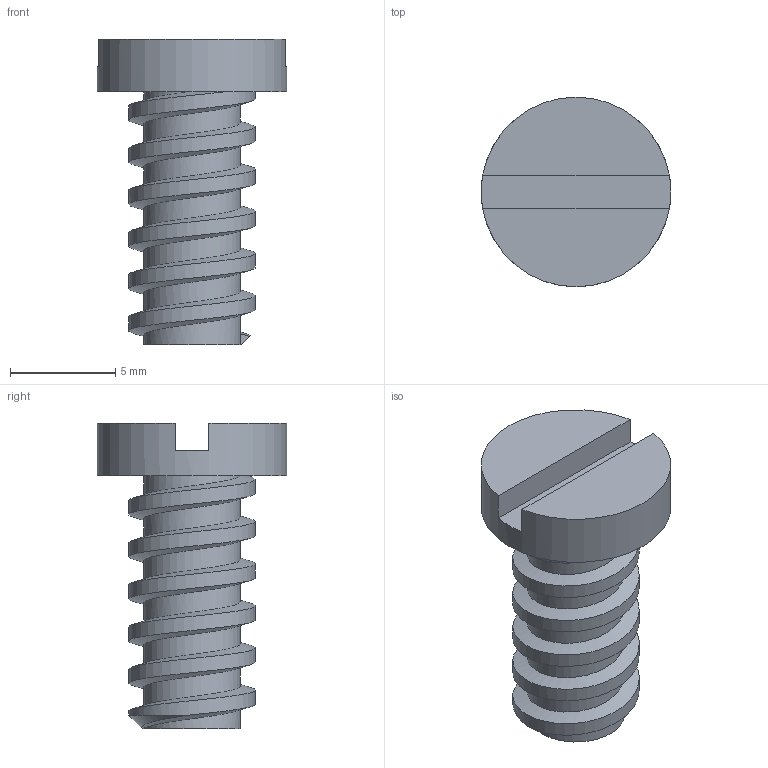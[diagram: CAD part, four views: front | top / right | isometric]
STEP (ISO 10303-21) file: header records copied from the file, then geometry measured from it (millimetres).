
FILE_DESCRIPTION(('Open CASCADE Model'),'2;1');
FILE_NAME('Open CASCADE Shape Model','2026-09-21T16:06:43',('Author'),( 'Open CASCADE'),'Open CASCADE STEP processor 7.9','Open CASCADE 7.9' ,'Unknown');
FILE_SCHEMA(('AUTOMOTIVE_DESIGN { 1 0 10303 214 1 1 1 1 }'));
Length unit declared in the file: millimetre
Products named in the file (1): Open CASCADE STEP translator 7.9 6
Bounding box: 9 x 9 x 14.5 mm (x, y, z)
Volume: 397.2 mm3; surface area: 514.5 mm2
Topology: 1 solids, 1 shells, 21 faces, 52 edges, 34 vertices
Faces by surface type: plane 9, cylinder 8, bspline 3, cone 1
Full cylindrical faces by diameter (mm): 4.6 x5, 9 x1
Entity records: 4314 total; most frequent: CARTESIAN_POINT 3363, DIRECTION 138, ORIENTED_EDGE 104, PCURVE 104, DEFINITIONAL_REPRESENTATION 104, LINE 76, VECTOR 76, B_SPLINE_CURVE_WITH_KNOTS 62
